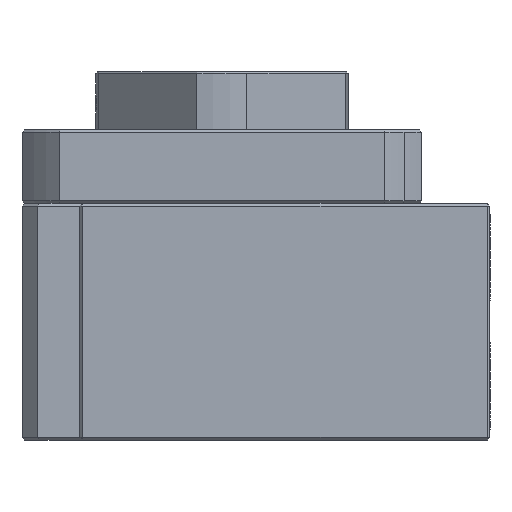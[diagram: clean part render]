
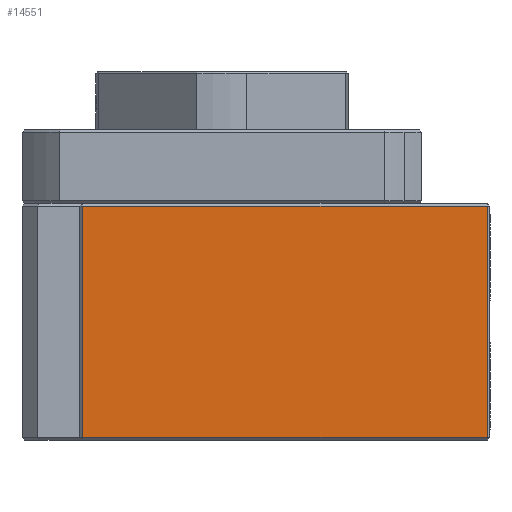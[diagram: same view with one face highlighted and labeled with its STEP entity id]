
A CAD part, left-side view. The second image highlights one B-rep face of the part: STEP entity #14551.
In plain terms, the highlighted planar face has unit normal (-1, 0, 0).
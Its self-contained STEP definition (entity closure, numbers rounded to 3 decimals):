
#132 = ORIENTED_EDGE ( 'NONE', *, *, #8897, .T. ) ;
#133 = ORIENTED_EDGE ( 'NONE', *, *, #8894, .T. ) ;
#134 = ORIENTED_EDGE ( 'NONE', *, *, #8896, .T. ) ;
#139 = ORIENTED_EDGE ( 'NONE', *, *, #8895, .T. ) ;
#582 = EDGE_LOOP ( 'NONE', ( #139, #133, #134, #132 ) ) ;
#890 = VECTOR ( 'NONE', #6953, 1000. ) ;
#1193 = VECTOR ( 'NONE', #6950, 1000. ) ;
#1436 = VECTOR ( 'NONE', #6947, 1000. ) ;
#1458 = VECTOR ( 'NONE', #6956, 1000. ) ;
#3161 = CARTESIAN_POINT ( 'NONE',  ( -64., 26.5, 22. ) ) ;
#3162 = CARTESIAN_POINT ( 'NONE',  ( -64., 26.5, -22. ) ) ;
#3163 = CARTESIAN_POINT ( 'NONE',  ( -64., -50.5, -22. ) ) ;
#3164 = CARTESIAN_POINT ( 'NONE',  ( -64., -50.5, 22. ) ) ;
#5877 = FACE_OUTER_BOUND ( 'NONE', #582, .T. ) ;
#5887 = AXIS2_PLACEMENT_3D ( 'NONE', #6283, #6284, #6285 ) ;
#6282 = PLANE ( 'NONE',  #5887 ) ;
#6283 = CARTESIAN_POINT ( 'NONE',  ( -64., 27., 22.5 ) ) ;
#6284 = DIRECTION ( 'NONE',  ( 1., 0., 0. ) ) ;
#6285 = DIRECTION ( 'NONE',  ( 0., 1., 0. ) ) ;
#6945 = LINE ( 'NONE', #6946, #1436 ) ;
#6946 = CARTESIAN_POINT ( 'NONE',  ( -64., 27., -22. ) ) ;
#6947 = DIRECTION ( 'NONE',  ( 0., -1., 0. ) ) ;
#6948 = LINE ( 'NONE', #6949, #1193 ) ;
#6949 = CARTESIAN_POINT ( 'NONE',  ( -64., 26.5, 22.5 ) ) ;
#6950 = DIRECTION ( 'NONE',  ( 0., 0., -1. ) ) ;
#6951 = LINE ( 'NONE', #6952, #890 ) ;
#6952 = CARTESIAN_POINT ( 'NONE',  ( -64., -50.5, 22.5 ) ) ;
#6953 = DIRECTION ( 'NONE',  ( 0., 0., 1. ) ) ;
#6954 = LINE ( 'NONE', #6955, #1458 ) ;
#6955 = CARTESIAN_POINT ( 'NONE',  ( -64., 27., 22. ) ) ;
#6956 = DIRECTION ( 'NONE',  ( 0., 1., 0. ) ) ;
#8894 = EDGE_CURVE ( 'NONE', #10617, #10618, #6945, .T. ) ;
#8895 = EDGE_CURVE ( 'NONE', #10616, #10617, #6948, .T. ) ;
#8896 = EDGE_CURVE ( 'NONE', #10618, #10619, #6951, .T. ) ;
#8897 = EDGE_CURVE ( 'NONE', #10619, #10616, #6954, .T. ) ;
#10616 = VERTEX_POINT ( 'NONE', #3161 ) ;
#10617 = VERTEX_POINT ( 'NONE', #3162 ) ;
#10618 = VERTEX_POINT ( 'NONE', #3163 ) ;
#10619 = VERTEX_POINT ( 'NONE', #3164 ) ;
#14551 = ADVANCED_FACE ( 'NONE', ( #5877 ), #6282, .F. ) ;
